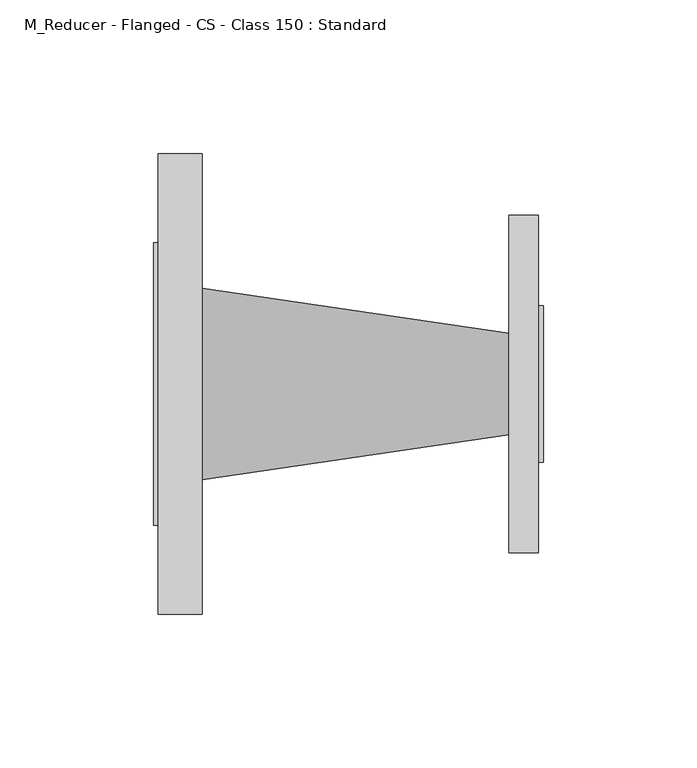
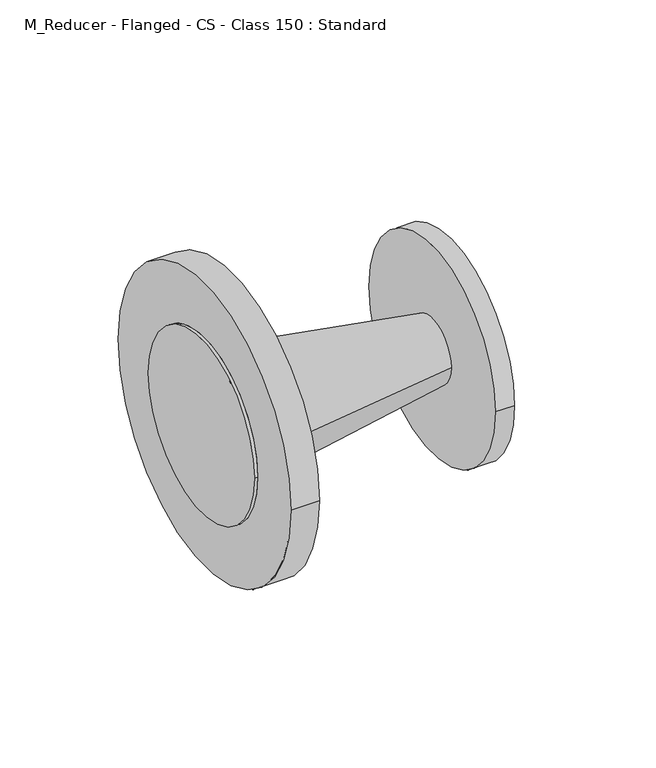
"""IFC4 building model written with IfcOpenShell, lengths in millimetres: pipe fitting geometry, M_Reducer - Flanged - CS - Class 150 : Standard."""

from ifc_helpers import new_model, si_unit, frame, origin, place, context, project, spatial, polyline, circle_curve, source, transform, mapped, element, save
from ifc_brep_helpers import plane_surface, cylinder_surface, revolved_surface, advanced_brep


def m_reducer_flanged_cs_class_150_standard_a7631c35(model_context):
    return source(origin(), model_context, "Body", "AdvancedBrep", [
        advanced_brep(
        [(15.8875, -75.0, 0.0), (15.8875, 75.0, 0.0), (15.8875, 31.1, 0.0), (15.8875, -31.1, 0.0), (1.5875, -75.0, 0.0), (1.5875, 75.0, 0.0), (1.5875, -46.05, 0.0), (1.5875, 46.05, 0.0), (115.8125, 16.5, 0.0), (115.8125, -16.5, 0.0), (125.4125, -55.0, 0.0), (125.4125, 55.0, 0.0), (125.4125, 25.4, 0.0), (125.4125, -25.4, 0.0), (115.8125, -55.0, 0.0), (115.8125, 55.0, 0.0), (0.0, -46.05, 0.0), (0.0, 46.05, 0.0), (127.0, -25.4, 0.0), (127.0, 25.4, 0.0)],
        [
            (0, 1, circle_curve(frame((15.8875, 0.0, 0.0), z_axis=(1.0, 0.0, 0.0), x_axis=(0.0, 1.0, 0.0)), 75.0)),
            (1, 0, circle_curve(frame((15.8875, 0.0, 0.0), z_axis=(1.0, 0.0, 0.0), x_axis=(0.0, 1.0, 0.0)), 75.0)),
            (2, 3, circle_curve(frame((15.8875, 0.0, 0.0), z_axis=(-1.0, 0.0, 0.0), x_axis=(0.0, -1.0, 0.0)), 31.1)),
            (3, 2, circle_curve(frame((15.8875, 0.0, 0.0), z_axis=(-1.0, 0.0, 0.0), x_axis=(0.0, 1.0, 0.0)), 31.1)),
            (4, 5, circle_curve(frame((1.5875, 0.0, 0.0), z_axis=(-1.0, 0.0, 0.0), x_axis=(0.0, 1.0, 0.0)), 75.0)),
            (5, 4, circle_curve(frame((1.5875, 0.0, 0.0), z_axis=(-1.0, 0.0, 0.0), x_axis=(0.0, 1.0, 0.0)), 75.0)),
            (6, 7, circle_curve(frame((1.5875, 0.0, 0.0), z_axis=(1.0, 0.0, 0.0), x_axis=(0.0, 1.0, 0.0)), 46.05)),
            (7, 6, circle_curve(frame((1.5875, 0.0, 0.0), z_axis=(1.0, 0.0, 0.0), x_axis=(0.0, 1.0, 0.0)), 46.05)),
            (0, 4),
            (5, 1),
            (2, 8),
            (8, 9, circle_curve(frame((115.8125, 0.0, 0.0), z_axis=(-1.0, 0.0, 0.0), x_axis=(0.0, -1.0, 0.0)), 16.5)),
            (9, 3),
            (9, 8, circle_curve(frame((115.8125, 0.0, 0.0), z_axis=(-1.0, 0.0, 0.0), x_axis=(0.0, 1.0, 0.0)), 16.5)),
            (10, 11, circle_curve(frame((125.4125, 0.0, 0.0), z_axis=(1.0, 0.0, 0.0), x_axis=(0.0, 1.0, 0.0)), 55.0)),
            (11, 10, circle_curve(frame((125.4125, 0.0, 0.0), z_axis=(1.0, 0.0, 0.0), x_axis=(0.0, 1.0, 0.0)), 55.0)),
            (12, 13, circle_curve(frame((125.4125, 0.0, 0.0), z_axis=(-1.0, 0.0, 0.0), x_axis=(0.0, 1.0, 0.0)), 25.4)),
            (13, 12, circle_curve(frame((125.4125, 0.0, 0.0), z_axis=(-1.0, 0.0, 0.0), x_axis=(0.0, 1.0, 0.0)), 25.4)),
            (14, 15, circle_curve(frame((115.8125, 0.0, 0.0), z_axis=(-1.0, 0.0, 0.0), x_axis=(0.0, 1.0, 0.0)), 55.0)),
            (15, 14, circle_curve(frame((115.8125, 0.0, 0.0), z_axis=(-1.0, 0.0, 0.0), x_axis=(0.0, 1.0, 0.0)), 55.0)),
            (10, 14),
            (15, 11),
            (16, 17, circle_curve(frame((0.0, 0.0, 0.0), z_axis=(-1.0, 0.0, 0.0), x_axis=(0.0, 1.0, 0.0)), 46.05)),
            (17, 16, circle_curve(frame((0.0, 0.0, 0.0), z_axis=(-1.0, 0.0, 0.0), x_axis=(0.0, 1.0, 0.0)), 46.05)),
            (17, 7),
            (6, 16),
            (18, 19, circle_curve(frame((127.0, 0.0, 0.0), z_axis=(1.0, 0.0, 0.0), x_axis=(0.0, 1.0, 0.0)), 25.4)),
            (19, 18, circle_curve(frame((127.0, 0.0, 0.0), z_axis=(1.0, 0.0, 0.0), x_axis=(0.0, 1.0, 0.0)), 25.4)),
            (18, 13),
            (12, 19),
        ],
        [
            plane_surface(frame((15.8875, 75.0, 0.0), z_axis=(1.0, 0.0, 0.0), x_axis=(0.0, 0.0, 1.0))),
            plane_surface(frame((1.5875, 75.0, 0.0), z_axis=(-1.0, 0.0, 0.0), x_axis=(0.0, 0.0, -1.0))),
            cylinder_surface(frame((1.5875, 0.0, 0.0), z_axis=(1.0, 0.0, 0.0), x_axis=(0.0, 1.0, 0.0)), 75.0),
            revolved_surface(polyline([(115.8125, 16.500000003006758, 0.0), (15.887499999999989, 31.1, 0.0)]), (228.7414384, 0.0, 0.0), (-1.0, 0.0, 0.0)),
            plane_surface(frame((125.4125, 55.0, 0.0), z_axis=(1.0, 0.0, 0.0), x_axis=(0.0, 0.0, 1.0))),
            plane_surface(frame((115.8125, 55.0, 0.0), z_axis=(-1.0, 0.0, 0.0), x_axis=(0.0, 0.0, -1.0))),
            cylinder_surface(frame((115.8125, 0.0, 0.0), z_axis=(1.0, 0.0, 0.0), x_axis=(0.0, 1.0, 0.0)), 55.0),
            plane_surface(frame((0.0, 46.05, 0.0), z_axis=(-1.0, 0.0, 0.0), x_axis=(0.0, 0.0, -1.0))),
            cylinder_surface(frame((0.0, 0.0, 0.0), z_axis=(1.0, 0.0, 0.0), x_axis=(0.0, 1.0, 0.0)), 46.05),
            plane_surface(frame((127.0, 25.4, 0.0), z_axis=(1.0, 0.0, 0.0), x_axis=(0.0, 0.0, 1.0))),
            cylinder_surface(frame((125.4125, 0.0, 0.0), z_axis=(1.0, 0.0, 0.0), x_axis=(0.0, 1.0, 0.0)), 25.4),
        ],
        [
            (0, [[1, 2], [3, 4]]),
            (1, [[5, 6], [7, 8]]),
            (2, [[-1, 9, -6, 10]]),
            (2, [[-2, -10, -5, -9]]),
            (3, [[11, 12, 13, -3]]),
            (3, [[-11, -4, -13, 14]]),
            (4, [[15, 16], [17, 18]]),
            (5, [[19, 20], [-12, -14]]),
            (6, [[-15, 21, -20, 22]]),
            (6, [[-16, -22, -19, -21]]),
            (7, [[23, 24]]),
            (8, [[-24, 25, -7, 26]]),
            (8, [[-23, -26, -8, -25]]),
            (9, [[27, 28]]),
            (10, [[-27, 29, -17, 30]]),
            (10, [[-28, -30, -18, -29]]),
        ],
    ),
    ])


if __name__ == "__main__":
    model = new_model("IFC4")
    model_context = context("Model", 3, world=origin())
    ifc_project = project(units=[si_unit("LENGTHUNIT", "METRE", prefix="MILLI")], contexts=[model_context])
    site = spatial("IfcSite", under=ifc_project)
    building = spatial("IfcBuilding", under=site)
    placement = place(None, origin())
    m_reducer_flanged_cs_class_150_standard_shape = m_reducer_flanged_cs_class_150_standard_a7631c35(model_context)
    element("IfcPipeFitting", 1, ObjectType="M_Reducer - Flanged - CS - Class 150 : Standard", at=placement, inside=building, context=model_context, shape_type="MappedRepresentation", body=[
        mapped(m_reducer_flanged_cs_class_150_standard_shape, transform((0.0, 0.0, 0.0), x_axis=(1.0, 0.0, 0.0), y_axis=(0.0, 1.0, 0.0), z_axis=(0.0, 0.0, 1.0))),
    ])
    save(model, "model.ifc")
